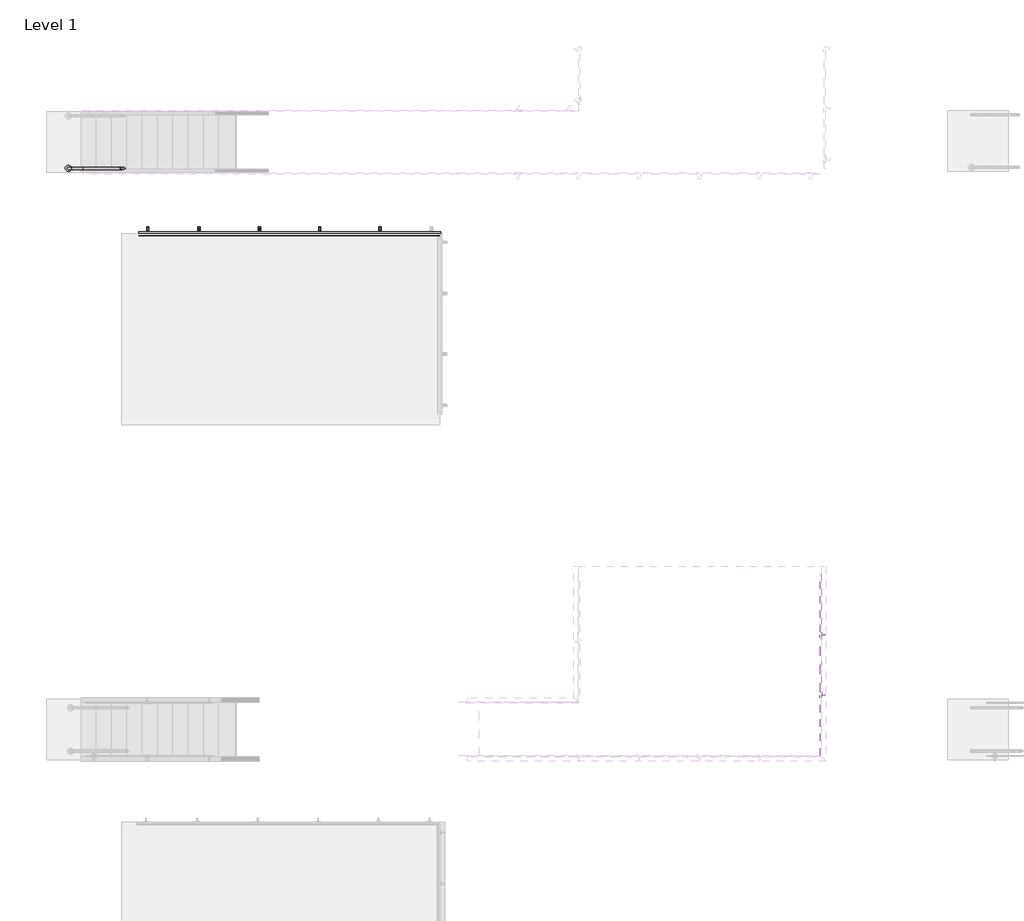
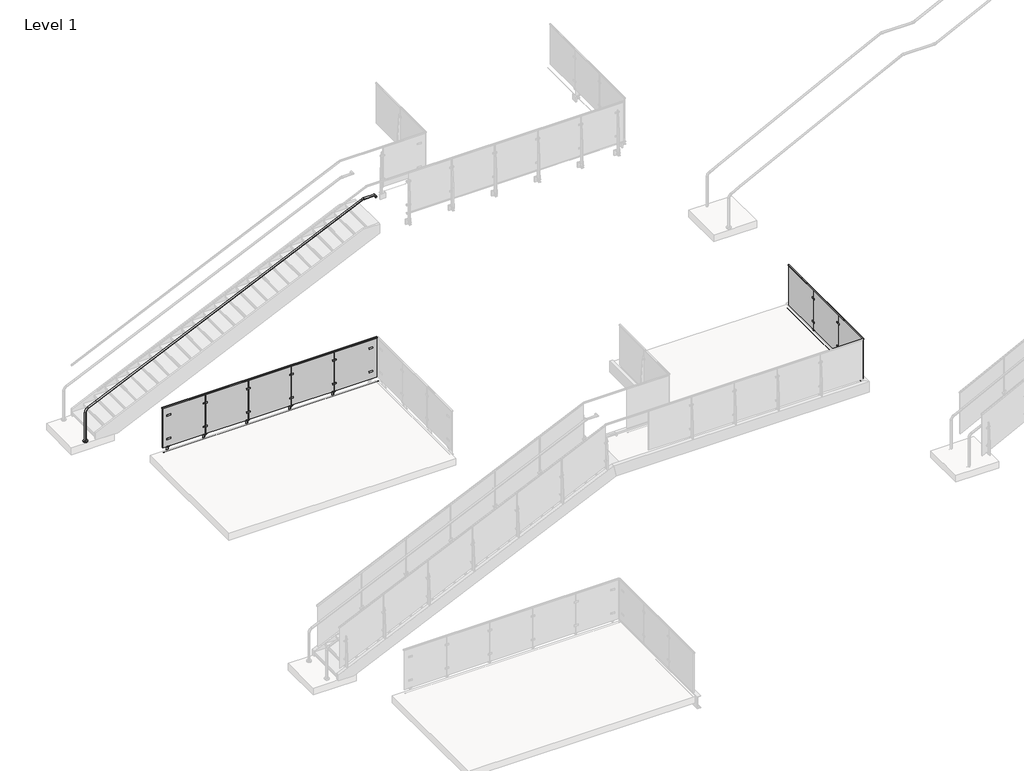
# One storey, part 17 of 37: 2 proxies, 2 railings.
"""IFC4 building model written with IfcOpenShell, lengths in millimetres."""

from ifc_helpers import new_model, si_unit, point, frame, frame_2d, origin, place, context, project, spatial, polyline, circle_curve, ellipse_curve, trimmed, segment, composite_curve, outline, extrude, transform, mapped, element, save
from ifc_brep_helpers import plane_surface, cylinder_surface, revolved_surface, advanced_brep
from components import baluster_end_post_viva_solo_top_mount_5a94812b

model = new_model("IFC4")

# Units and contexts
model_context = context("Model", 3, world=origin())
ifc_project = project(units=[si_unit("LENGTHUNIT", "METRE", prefix="MILLI")], contexts=[model_context])

# Site, building, storey
site = spatial("IfcSite", under=ifc_project)
building = spatial("IfcBuilding", under=site)
storey = spatial("IfcBuildingStorey", under=building, Name="Level 1", Elevation=0.0)

# Proxies
placement = place(None, origin())
baluster_end_post_viva_solo_top_mount_shape = baluster_end_post_viva_solo_top_mount_5a94812b(model_context)
element("IfcBuildingElementProxy", 1, Name="Baluster-End-Post-VIVA-SOLO-Top Mount : ANCHORED TO CONCRETE_FASCIA B1 MOUNT FOLD_STRAIGHT", ObjectType="Baluster-End-Post-VIVA-SOLO-Top Mount : ANCHORED TO CONCRETE_FASCIA B1 MOUNT FOLD_STRAIGHT", at=placement, inside=storey, context=model_context, shape_type="MappedRepresentation", body=[
    mapped(baluster_end_post_viva_solo_top_mount_shape, transform((-12829.8616451, 21733.5939615, -0.508), x_axis=(-1.0, 0.0, 0.0), y_axis=(0.0, -1.0, 0.0), z_axis=(0.0, 0.0, 1.0))),
])
element("IfcBuildingElementProxy", 2, Name="Metal-VIVA-Circular-1 1/2\"-Fascia_Right", ObjectType="Metal-VIVA-Circular-1 1/2\"-Fascia_Right", at=placement, inside=storey, context=model_context, shape_type="SolidModel", body=[
    advanced_brep(
    [(-7445.0811907, 22851.3591942, 3761.5343758), (-7445.0811907, 22889.4591942, 3761.5343758), (-7172.0311907, 22889.4591942, 3761.5343758), (-7210.1311907, 22851.3591942, 3761.5343758), (-7210.1311907, 22806.9091942, 3761.5343758), (-7172.0311907, 22806.9091942, 3761.5343758)],
    [
        (0, 1, circle_curve(frame((-7445.0811907, 22870.4091942, 3761.5343758), z_axis=(-1.0, 0.0, 0.0), x_axis=(0.0, 1.0, 0.0)), 19.05)),
        (1, 0, circle_curve(frame((-7445.0811907, 22870.4091942, 3761.5343758), z_axis=(-1.0, 0.0, 0.0), x_axis=(0.0, 1.0, 0.0)), 19.05)),
        (1, 2),
        (2, 3, ellipse_curve(frame((-7191.0811907, 22870.4091942, 3761.5343758), z_axis=(-0.7071067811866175, 0.7071067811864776, 0.0), x_axis=(-0.7071067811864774, -0.7071067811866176, 0.0)), 26.9407684, 19.05)),
        (3, 0),
        (3, 2, ellipse_curve(frame((-7191.0811907, 22870.4091942, 3761.5343758), z_axis=(-0.7071067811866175, 0.7071067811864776, 0.0), x_axis=(-0.7071067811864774, -0.7071067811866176, 0.0)), 26.9407684, 19.05)),
        (4, 5, circle_curve(frame((-7191.0811907, 22806.9091942, 3761.5343758), z_axis=(0.0, -1.0, 0.0), x_axis=(1.0, 0.0, 0.0)), 19.05)),
        (5, 4, circle_curve(frame((-7191.0811907, 22806.9091942, 3761.5343758), z_axis=(0.0, -1.0, 0.0), x_axis=(1.0, 0.0, 0.0)), 19.05)),
        (2, 5),
        (4, 3),
    ],
    [
        plane_surface(frame((-7445.0811907, 22870.4091942, 3761.5343758), z_axis=(-1.0, 0.0, 0.0), x_axis=(0.0, 0.0, 1.0))),
        cylinder_surface(frame((-7445.0811907, 22870.4091942, 3761.5343758), z_axis=(-1.0, 0.0, 0.0), x_axis=(0.0, 1.0, 0.0)), 19.05),
        plane_surface(frame((-7191.0811907, 22806.9091942, 3761.5343758), z_axis=(0.0, -1.0, 0.0), x_axis=(0.0, 0.0, 1.0))),
        cylinder_surface(frame((-7191.0811907, 22870.4091942, 3761.5343758), z_axis=(0.0, 1.0, 0.0), x_axis=(1.0, 0.0, 0.0)), 19.05),
    ],
    [
        (0, [[1, 2]]),
        (1, [[-2, 3, 4, 5]]),
        (1, [[-1, -5, 6, -3]]),
        (2, [[7, 8]]),
        (3, [[-4, 9, -7, 10]]),
        (3, [[-6, -10, -8, -9]]),
    ],
),
    extrude(outline(composite_curve([segment(trimmed(circle_curve(frame_2d((-14014.9960127, 22870.4091942)), 50.8), [point((-14014.9960127, 22921.2091942))], [point((-14014.9960127, 22819.6091942))], False, "CARTESIAN"), True, "CONTINUOUS"), segment(trimmed(circle_curve(frame_2d((-14014.9960127, 22870.4091942)), 50.8), [point((-14014.9960127, 22819.6091942))], [point((-14014.9960127, 22921.2091942))], False, "CARTESIAN"), True, "CONTINUOUS")], self_intersect=False)), frame((0.0, 0.0, -1.27), z_axis=(0.0, 0.0, 1.0), x_axis=(1.0, 0.0, 0.0)), (0.0, 0.0, 1.0), 19.05),
    advanced_brep(
    [(-14014.9960127, 22851.3591942, 17.78), (-14014.9960127, 22889.4591942, 17.78), (-14014.9960127, 22851.3591942, 721.3199396), (-14014.9960127, 22889.4591942, 721.3199396), (-13955.4515938, 22889.4591942, 813.8071717), (-13955.4515938, 22851.3591942, 813.8071717), (-13768.3505912, 22851.3591942, 898.8853085), (-13768.3505912, 22889.4591942, 898.8853085), (-7492.9486795, 22851.3591942, 3752.4216078), (-7492.9486795, 22889.4591942, 3752.4216078), (-7450.8930984, 22889.4591942, 3761.5343758), (-7450.8930984, 22851.3591942, 3761.5343758), (-7445.0811907, 22851.3591942, 3761.5343758), (-7445.0811907, 22889.4591942, 3761.5343758)],
    [
        (0, 1, circle_curve(frame((-14014.9960127, 22870.4091942, 17.78), z_axis=(0.0, 0.0, -1.0), x_axis=(0.0, 1.0, 0.0)), 19.05)),
        (1, 0, circle_curve(frame((-14014.9960127, 22870.4091942, 17.78), z_axis=(0.0, 0.0, -1.0), x_axis=(0.0, 1.0, 0.0)), 19.05)),
        (0, 2),
        (2, 3, circle_curve(frame((-14014.9960127, 22870.4091942, 721.3199396), z_axis=(0.0, 0.0, -1.0), x_axis=(0.0, 1.0, 0.0)), 19.05)),
        (3, 1),
        (3, 2, circle_curve(frame((-14014.9960127, 22870.4091942, 721.3199396), z_axis=(0.0, 0.0, -1.0), x_axis=(0.0, 1.0, 0.0)), 19.05)),
        (4, 3, circle_curve(frame((-13913.3960127, 22889.4591942, 721.3199396), z_axis=(0.0, -1.0, 0.0), x_axis=(-1.0, 0.0, 0.0)), 101.6)),
        (2, 5, circle_curve(frame((-13913.3960127, 22851.3591942, 721.3199396), z_axis=(0.0, 1.0, 0.0), x_axis=(-1.0, 0.0, 0.0)), 101.6)),
        (5, 4, circle_curve(frame((-13955.4515938, 22870.4091942, 813.8071717), z_axis=(-0.9103074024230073, 0.0, -0.41393288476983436), x_axis=(0.0, 1.0, 0.0)), 19.05)),
        (4, 5, circle_curve(frame((-13955.4515938, 22870.4091942, 813.8071717), z_axis=(-0.9103074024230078, 0.0, -0.41393288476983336), x_axis=(0.0, 1.0, 0.0)), 19.05)),
        (5, 6),
        (6, 7, circle_curve(frame((-13768.3505912, 22870.4091942, 898.8853085), z_axis=(-0.9103074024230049, 0.0, -0.4139328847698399), x_axis=(0.0, 1.0, 0.0)), 19.05)),
        (7, 4),
        (7, 6, circle_curve(frame((-13768.3505912, 22870.4091942, 898.8853085), z_axis=(-0.9103074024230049, 0.0, -0.4139328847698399), x_axis=(0.0, 1.0, 0.0)), 19.05)),
        (6, 8),
        (8, 9, circle_curve(frame((-7492.9486795, 22870.4091942, 3752.4216078), z_axis=(-0.9103074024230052, 0.0, -0.4139328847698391), x_axis=(0.0, 1.0, 0.0)), 19.05)),
        (9, 7),
        (9, 8, circle_curve(frame((-7492.9486795, 22870.4091942, 3752.4216078), z_axis=(-0.9103074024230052, 0.0, -0.4139328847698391), x_axis=(0.0, 1.0, 0.0)), 19.05)),
        (10, 9, circle_curve(frame((-7450.8930984, 22889.4591942, 3659.9343758), z_axis=(0.0, -1.0, 0.0), x_axis=(-0.4139328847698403, 0.0, 0.9103074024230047)), 101.6)),
        (8, 11, circle_curve(frame((-7450.8930984, 22851.3591942, 3659.9343758), z_axis=(0.0, 1.0, 0.0), x_axis=(-0.4139328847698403, 0.0, 0.9103074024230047)), 101.6)),
        (11, 10, circle_curve(frame((-7450.8930984, 22870.4091942, 3761.5343758), z_axis=(-1.0, 0.0, 0.0), x_axis=(0.0, 1.0, 0.0)), 19.05)),
        (10, 11, circle_curve(frame((-7450.8930984, 22870.4091942, 3761.5343758), z_axis=(-1.0, 0.0, 0.0), x_axis=(0.0, 1.0, 0.0)), 19.05)),
        (12, 13, circle_curve(frame((-7445.0811907, 22870.4091942, 3761.5343758), z_axis=(1.0, 0.0, 0.0), x_axis=(0.0, 1.0, 0.0)), 19.05)),
        (13, 12, circle_curve(frame((-7445.0811907, 22870.4091942, 3761.5343758), z_axis=(1.0, 0.0, 0.0), x_axis=(0.0, 1.0, 0.0)), 19.05)),
        (11, 12),
        (13, 10),
    ],
    [
        plane_surface(frame((-14034.0460127, 22832.3091942, 17.78), z_axis=(0.0, 0.0, -1.0), x_axis=(1.0, 0.0, 0.0))),
        cylinder_surface(frame((-14014.9960127, 22870.4091942, 17.78), z_axis=(0.0, 0.0, -1.0), x_axis=(0.0, 1.0, 0.0)), 19.05),
        revolved_surface(trimmed(ellipse_curve(frame((-14014.9960127, 22870.4091942, 721.3199396), z_axis=(0.0, 0.0, -1.0), x_axis=(0.0, 1.0, 0.0)), 19.05, 19.05), [point((-14014.9960127, 22851.3591942, 721.3199396))], [point((-14014.9960127, 22889.4591942, 721.3199396))], True, "CARTESIAN"), (-13913.3960127, 22870.4091942, 721.3199396), (0.0, 1.0, 0.0)),
        revolved_surface(trimmed(ellipse_curve(frame((-14014.9960127, 22870.4091942, 721.3199396), z_axis=(0.0, 0.0, -1.0), x_axis=(0.0, 1.0, 0.0)), 19.05, 19.05), [point((-14014.9960127, 22889.4591942, 721.3199396))], [point((-14014.9960127, 22851.3591942, 721.3199396))], True, "CARTESIAN"), (-13913.3960127, 22870.4091942, 721.3199396), (0.0, 1.0, 0.0)),
        cylinder_surface(frame((-13955.4515938, 22870.4091942, 813.8071717), z_axis=(-0.9103074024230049, 0.0, -0.4139328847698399), x_axis=(0.0, 1.0, 0.0)), 19.05),
        cylinder_surface(frame((-13768.3505912, 22870.4091942, 898.8853085), z_axis=(-0.9103074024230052, 0.0, -0.4139328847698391), x_axis=(0.0, 1.0, 0.0)), 19.05),
        revolved_surface(trimmed(ellipse_curve(frame((-7492.9486795, 22870.4091942, 3752.4216078), z_axis=(-0.9103074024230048, 0.0, -0.41393288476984), x_axis=(0.0, 1.0, 0.0)), 19.05, 19.05), [point((-7492.9486795, 22851.3591942, 3752.4216078))], [point((-7492.9486795, 22889.4591942, 3752.4216078))], True, "CARTESIAN"), (-7450.8930984, 22870.4091942, 3659.9343758), (0.0, 1.0, 0.0)),
        revolved_surface(trimmed(ellipse_curve(frame((-7492.9486795, 22870.4091942, 3752.4216078), z_axis=(-0.9103074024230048, 0.0, -0.41393288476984), x_axis=(0.0, 1.0, 0.0)), 19.05, 19.05), [point((-7492.9486795, 22889.4591942, 3752.4216078))], [point((-7492.9486795, 22851.3591942, 3752.4216078))], True, "CARTESIAN"), (-7450.8930984, 22870.4091942, 3659.9343758), (0.0, 1.0, 0.0)),
        plane_surface(frame((-7445.0811907, 22870.4091942, 3780.5843758), z_axis=(1.0, 0.0, 0.0), x_axis=(0.0, 1.0, 0.0))),
        cylinder_surface(frame((-7450.8930984, 22870.4091942, 3761.5343758), z_axis=(-1.0, 0.0, 0.0), x_axis=(0.0, 1.0, 0.0)), 19.05),
    ],
    [
        (0, [[1, 2]]),
        (1, [[-1, 3, 4, 5]]),
        (1, [[-2, -5, 6, -3]]),
        (2, [[7, -4, 8, 9]]),
        (3, [[-8, -6, -7, 10]]),
        (4, [[-9, 11, 12, 13]]),
        (4, [[-10, -13, 14, -11]]),
        (5, [[-12, 15, 16, 17]]),
        (5, [[-14, -17, 18, -15]]),
        (6, [[19, -16, 20, 21]]),
        (7, [[-20, -18, -19, 22]]),
        (8, [[23, 24]]),
        (9, [[-21, 25, -24, 26]]),
        (9, [[-22, -26, -23, -25]]),
    ],
),
])

# Railings
element("IfcRailing", 3, ObjectType="VIVA-SOLO-Glass-Top_Weld_Steel-Channel Mount-Straight", at=placement, inside=storey, context=model_context, shape_type="SweptSolid", body=[
    extrude(outline(composite_curve([segment(trimmed(circle_curve(frame_2d((3047.746, -1384.947319)), 0.254), [point((3047.746, -1384.693319))], [point((3047.746, -1385.201319))], False, "CARTESIAN"), True, "CONTINUOUS"), segment(trimmed(circle_curve(frame_2d((3047.746, -1384.947319)), 0.254), [point((3047.746, -1385.201319))], [point((3047.746, -1384.693319))], False, "CARTESIAN"), True, "CONTINUOUS")], self_intersect=False)), frame((0.0, 12987.2826645, 0.0), z_axis=(0.0, 1.0, 0.0), x_axis=(0.0, 0.0, 1.0)), (0.0, 0.0, 1.0), 3048.0),
    extrude(outline(composite_curve([segment(trimmed(circle_curve(frame_2d((3047.746, -1384.947319)), 0.254), [point((3047.746, -1384.693319))], [point((3047.746, -1385.201319))], False, "CARTESIAN"), True, "CONTINUOUS"), segment(trimmed(circle_curve(frame_2d((3047.746, -1384.947319)), 0.254), [point((3047.746, -1385.201319))], [point((3047.746, -1384.693319))], False, "CARTESIAN"), True, "CONTINUOUS")], self_intersect=False)), frame((0.0, 12987.2826645, 0.0), z_axis=(0.0, 1.0, 0.0), x_axis=(0.0, 0.0, 1.0)), (0.0, 0.0, 1.0), 3048.0),
    extrude(outline(polyline([(4127.5, -1337.639819), (4127.5, -1359.864819), (4102.1, -1359.864819), (4102.1, -1355.102319), (4122.7375, -1355.102319), (4122.7375, -1342.402319), (4102.1, -1342.402319), (4102.1, -1337.639819), (4127.5, -1337.639819)])), frame((0.0, 12987.2826645, 0.0), z_axis=(0.0, 1.0, 0.0), x_axis=(0.0, 0.0, 1.0)), (0.0, 0.0, 1.0), 3048.0),
    extrude(outline(polyline([(-1355.102319, 15032.3657111), (-1355.102319, 16022.9657111), (-1342.402319, 16022.9657111), (-1342.402319, 15032.3657111), (-1355.102319, 15032.3657111)])), frame((0.0, 0.0, 3124.2), z_axis=(0.0, 0.0, 1.0), x_axis=(1.0, 0.0, 0.0)), (0.0, 0.0, 1.0), 998.474),
    extrude(outline(polyline([(3962.4, -1332.877319), (3086.1, -1332.877319), (3086.1, -1269.377319), (3429.0, -1269.377319), (3962.4, -1307.477319), (3962.4, -1332.877319)])), frame((0.0, 15012.9326645, 0.0), z_axis=(0.0, 1.0, 0.0), x_axis=(0.0, 0.0, 1.0)), (0.0, 0.0, 1.0), 12.7),
    extrude(outline(polyline([(-1342.402319, 14974.8326645), (-1342.402319, 15063.7326645), (-1332.877319, 15063.7326645), (-1332.877319, 14974.8326645), (-1342.402319, 14974.8326645)])), frame((0.0, 0.0, 3299.9910694), z_axis=(0.0, 0.0, 1.0), x_axis=(1.0, 0.0, 0.0)), (0.0, 0.0, 1.0), 31.75),
    extrude(outline(polyline([(-1342.402319, 14974.8326645), (-1342.402319, 15063.7326645), (-1332.877319, 15063.7326645), (-1332.877319, 14974.8326645), (-1342.402319, 14974.8326645)])), frame((0.0, 0.0, 3886.2992187), z_axis=(0.0, 0.0, 1.0), x_axis=(1.0, 0.0, 0.0)), (0.0, 0.0, 1.0), 31.75),
    extrude(outline(polyline([(-1364.627319, 14974.8326645), (-1364.627319, 15063.7326645), (-1355.102319, 15063.7326645), (-1355.102319, 14974.8326645), (-1364.627319, 14974.8326645)])), frame((0.0, 0.0, 3299.9910694), z_axis=(0.0, 0.0, 1.0), x_axis=(1.0, 0.0, 0.0)), (0.0, 0.0, 1.0), 31.75),
    extrude(outline(polyline([(-1364.627319, 14974.8326645), (-1364.627319, 15063.7326645), (-1355.102319, 15063.7326645), (-1355.102319, 14974.8326645), (-1364.627319, 14974.8326645)])), frame((0.0, 0.0, 3886.2992187), z_axis=(0.0, 0.0, 1.0), x_axis=(1.0, 0.0, 0.0)), (0.0, 0.0, 1.0), 31.75),
    extrude(outline(polyline([(15063.7326645, 3124.2), (15063.7326645, 3117.85), (15019.2826645, 3095.9353513), (14974.8326645, 3117.85), (14974.8326645, 3124.2), (15063.7326645, 3124.2)])), frame((-1355.102319, 0.0, 0.0), z_axis=(1.0, 0.0, 0.0), x_axis=(0.0, 1.0, 0.0)), (0.0, 0.0, 1.0), 12.7),
    extrude(outline(composite_curve([segment(trimmed(circle_curve(frame_2d((15019.2826645, 3315.8660694)), 6.35), [point((15025.6326645, 3315.8660694))], [point((15012.9326645, 3315.8660694))], False, "CARTESIAN"), True, "CONTINUOUS"), segment(trimmed(circle_curve(frame_2d((15019.2826645, 3315.8660694)), 6.35), [point((15012.9326645, 3315.8660694))], [point((15025.6326645, 3315.8660694))], False, "CARTESIAN"), True, "CONTINUOUS")], self_intersect=False)), frame((-1355.102319, 0.0, 0.0), z_axis=(1.0, 0.0, 0.0), x_axis=(0.0, 1.0, 0.0)), (0.0, 0.0, 1.0), 12.7),
    extrude(outline(composite_curve([segment(trimmed(circle_curve(frame_2d((15019.2826645, 3902.1742187)), 6.35), [point((15025.6326645, 3902.1742187))], [point((15012.9326645, 3902.1742187))], False, "CARTESIAN"), True, "CONTINUOUS"), segment(trimmed(circle_curve(frame_2d((15019.2826645, 3902.1742187)), 6.35), [point((15012.9326645, 3902.1742187))], [point((15025.6326645, 3902.1742187))], False, "CARTESIAN"), True, "CONTINUOUS")], self_intersect=False)), frame((-1355.102319, 0.0, 0.0), z_axis=(1.0, 0.0, 0.0), x_axis=(0.0, 1.0, 0.0)), (0.0, 0.0, 1.0), 12.7),
    extrude(outline(composite_curve([segment(trimmed(circle_curve(frame_2d((15019.2826645, 3108.325)), 11.1125), [point((15030.3951645, 3108.325))], [point((15008.1701645, 3108.325))], False, "CARTESIAN"), True, "CONTINUOUS"), segment(trimmed(circle_curve(frame_2d((15019.2826645, 3108.325)), 11.1125), [point((15008.1701645, 3108.325))], [point((15030.3951645, 3108.325))], False, "CARTESIAN"), True, "CONTINUOUS")], self_intersect=False)), frame((-1358.277319, 0.0, 0.0), z_axis=(1.0, 0.0, 0.0), x_axis=(0.0, 1.0, 0.0)), (0.0, 0.0, 1.0), 25.4),
    extrude(outline(polyline([(-1355.102319, 14016.3657111), (-1355.102319, 15006.9657111), (-1342.402319, 15006.9657111), (-1342.402319, 14016.3657111), (-1355.102319, 14016.3657111)])), frame((0.0, 0.0, 3124.2), z_axis=(0.0, 0.0, 1.0), x_axis=(1.0, 0.0, 0.0)), (0.0, 0.0, 1.0), 998.474),
    extrude(outline(polyline([(3962.4, -1332.877319), (3086.1, -1332.877319), (3086.1, -1269.377319), (3429.0, -1269.377319), (3962.4, -1307.477319), (3962.4, -1332.877319)])), frame((0.0, 13996.9326645, 0.0), z_axis=(0.0, 1.0, 0.0), x_axis=(0.0, 0.0, 1.0)), (0.0, 0.0, 1.0), 12.7),
    extrude(outline(polyline([(-1342.402319, 13958.8326645), (-1342.402319, 14047.7326645), (-1332.877319, 14047.7326645), (-1332.877319, 13958.8326645), (-1342.402319, 13958.8326645)])), frame((0.0, 0.0, 3299.9910694), z_axis=(0.0, 0.0, 1.0), x_axis=(1.0, 0.0, 0.0)), (0.0, 0.0, 1.0), 31.75),
    extrude(outline(polyline([(-1342.402319, 13958.8326645), (-1342.402319, 14047.7326645), (-1332.877319, 14047.7326645), (-1332.877319, 13958.8326645), (-1342.402319, 13958.8326645)])), frame((0.0, 0.0, 3886.2992187), z_axis=(0.0, 0.0, 1.0), x_axis=(1.0, 0.0, 0.0)), (0.0, 0.0, 1.0), 31.75),
    extrude(outline(polyline([(-1364.627319, 13958.8326645), (-1364.627319, 14047.7326645), (-1355.102319, 14047.7326645), (-1355.102319, 13958.8326645), (-1364.627319, 13958.8326645)])), frame((0.0, 0.0, 3299.9910694), z_axis=(0.0, 0.0, 1.0), x_axis=(1.0, 0.0, 0.0)), (0.0, 0.0, 1.0), 31.75),
    extrude(outline(polyline([(-1364.627319, 13958.8326645), (-1364.627319, 14047.7326645), (-1355.102319, 14047.7326645), (-1355.102319, 13958.8326645), (-1364.627319, 13958.8326645)])), frame((0.0, 0.0, 3886.2992187), z_axis=(0.0, 0.0, 1.0), x_axis=(1.0, 0.0, 0.0)), (0.0, 0.0, 1.0), 31.75),
    extrude(outline(polyline([(14047.7326645, 3124.2), (14047.7326645, 3117.85), (14003.2826645, 3095.9353513), (13958.8326645, 3117.85), (13958.8326645, 3124.2), (14047.7326645, 3124.2)])), frame((-1355.102319, 0.0, 0.0), z_axis=(1.0, 0.0, 0.0), x_axis=(0.0, 1.0, 0.0)), (0.0, 0.0, 1.0), 12.7),
    extrude(outline(composite_curve([segment(trimmed(circle_curve(frame_2d((14003.2826645, 3315.8660694)), 6.35), [point((14009.6326645, 3315.8660694))], [point((13996.9326645, 3315.8660694))], False, "CARTESIAN"), True, "CONTINUOUS"), segment(trimmed(circle_curve(frame_2d((14003.2826645, 3315.8660694)), 6.35), [point((13996.9326645, 3315.8660694))], [point((14009.6326645, 3315.8660694))], False, "CARTESIAN"), True, "CONTINUOUS")], self_intersect=False)), frame((-1355.102319, 0.0, 0.0), z_axis=(1.0, 0.0, 0.0), x_axis=(0.0, 1.0, 0.0)), (0.0, 0.0, 1.0), 12.7),
    extrude(outline(composite_curve([segment(trimmed(circle_curve(frame_2d((14003.2826645, 3902.1742187)), 6.35), [point((14009.6326645, 3902.1742187))], [point((13996.9326645, 3902.1742187))], False, "CARTESIAN"), True, "CONTINUOUS"), segment(trimmed(circle_curve(frame_2d((14003.2826645, 3902.1742187)), 6.35), [point((13996.9326645, 3902.1742187))], [point((14009.6326645, 3902.1742187))], False, "CARTESIAN"), True, "CONTINUOUS")], self_intersect=False)), frame((-1355.102319, 0.0, 0.0), z_axis=(1.0, 0.0, 0.0), x_axis=(0.0, 1.0, 0.0)), (0.0, 0.0, 1.0), 12.7),
    extrude(outline(composite_curve([segment(trimmed(circle_curve(frame_2d((14003.2826645, 3108.325)), 11.1125), [point((14014.3951645, 3108.325))], [point((13992.1701645, 3108.325))], False, "CARTESIAN"), True, "CONTINUOUS"), segment(trimmed(circle_curve(frame_2d((14003.2826645, 3108.325)), 11.1125), [point((13992.1701645, 3108.325))], [point((14014.3951645, 3108.325))], False, "CARTESIAN"), True, "CONTINUOUS")], self_intersect=False)), frame((-1358.277319, 0.0, 0.0), z_axis=(1.0, 0.0, 0.0), x_axis=(0.0, 1.0, 0.0)), (0.0, 0.0, 1.0), 25.4),
    extrude(outline(polyline([(-1355.102319, 13000.3657111), (-1355.102319, 13990.9657111), (-1342.402319, 13990.9657111), (-1342.402319, 13000.3657111), (-1355.102319, 13000.3657111)])), frame((0.0, 0.0, 3124.2), z_axis=(0.0, 0.0, 1.0), x_axis=(1.0, 0.0, 0.0)), (0.0, 0.0, 1.0), 998.474),
])
element("IfcRailing", 4, ObjectType="VIVA-SOLO-Glass-Fascia Mount-Straight-B1", at=placement, inside=storey, context=model_context, shape_type="SweptSolid", body=[
    extrude(outline(composite_curve([segment(trimmed(circle_curve(frame_2d((21733.5939615, -0.254)), 0.254), [point((21733.3399615, -0.254))], [point((21733.8479615, -0.254))], False, "CARTESIAN"), True, "CONTINUOUS"), segment(trimmed(circle_curve(frame_2d((21733.5939615, -0.254)), 0.254), [point((21733.8479615, -0.254))], [point((21733.3399615, -0.254))], False, "CARTESIAN"), True, "CONTINUOUS")], self_intersect=False)), frame((-12829.8616451, 0.0, 0.0), z_axis=(1.0, 0.0, 0.0), x_axis=(0.0, 1.0, 0.0)), (0.0, 0.0, 1.0), 5080.0),
    extrude(outline(composite_curve([segment(trimmed(circle_curve(frame_2d((21733.5939615, -0.254)), 0.254), [point((21733.3399615, -0.254))], [point((21733.8479615, -0.254))], False, "CARTESIAN"), True, "CONTINUOUS"), segment(trimmed(circle_curve(frame_2d((21733.5939615, -0.254)), 0.254), [point((21733.8479615, -0.254))], [point((21733.3399615, -0.254))], False, "CARTESIAN"), True, "CONTINUOUS")], self_intersect=False)), frame((-12829.8616451, 0.0, 0.0), z_axis=(1.0, 0.0, 0.0), x_axis=(0.0, 1.0, 0.0)), (0.0, 0.0, 1.0), 5080.0),
    extrude(outline(polyline([(21779.3139615, 1079.5), (21801.5389615, 1079.5), (21801.5389615, 1054.1), (21796.7764615, 1054.1), (21796.7764615, 1074.7375), (21784.0764615, 1074.7375), (21784.0764615, 1054.1), (21779.3139615, 1054.1), (21779.3139615, 1079.5)])), frame((-12829.8616451, 0.0, 0.0), z_axis=(1.0, 0.0, 0.0), x_axis=(0.0, 1.0, 0.0)), (0.0, 0.0, 1.0), 5080.0),
    extrude(outline(polyline([(-8752.7785985, 21784.1399615), (-8752.7785985, 21796.8399615), (-7762.1785985, 21796.8399615), (-7762.1785985, 21784.1399615), (-8752.7785985, 21784.1399615)])), frame((0.0, 0.0, 76.2), z_axis=(0.0, 0.0, 1.0), x_axis=(1.0, 0.0, 0.0)), (0.0, 0.0, 1.0), 998.474),
    extrude(outline(polyline([(21806.3649615, 914.4), (21831.7649615, 914.4), (21869.8649615, 381.0), (21869.8649615, -184.15), (21806.3649615, -184.15), (21806.3649615, 914.4)])), frame((-8772.2116451, 0.0, 0.0), z_axis=(1.0, 0.0, 0.0), x_axis=(0.0, 1.0, 0.0)), (0.0, 0.0, 1.0), 12.7),
    extrude(outline(polyline([(-8746.0178951, 21790.4899615), (-8785.7053951, 21790.4899615), (-8785.7053951, 21884.1524615), (-8746.0178951, 21884.1524615), (-8746.0178951, 21790.4899615)])), frame((0.0, 0.0, -128.5875), z_axis=(0.0, 0.0, 1.0), x_axis=(1.0, 0.0, 0.0)), (0.0, 0.0, 1.0), 12.7),
    extrude(outline(polyline([(-8746.0178951, 21790.4899615), (-8785.7053951, 21790.4899615), (-8785.7053951, 21884.1524615), (-8746.0178951, 21884.1524615), (-8746.0178951, 21790.4899615)])), frame((0.0, 0.0, -188.9125), z_axis=(0.0, 0.0, 1.0), x_axis=(1.0, 0.0, 0.0)), (0.0, 0.0, 1.0), 12.7),
    extrude(outline(polyline([(-8810.3116451, 21796.8399615), (-8810.3116451, 21806.3649615), (-8721.4116451, 21806.3649615), (-8721.4116451, 21796.8399615), (-8810.3116451, 21796.8399615)])), frame((0.0, 0.0, 251.9910694), z_axis=(0.0, 0.0, 1.0), x_axis=(1.0, 0.0, 0.0)), (0.0, 0.0, 1.0), 31.75),
    extrude(outline(polyline([(-8810.3116451, 21796.8399615), (-8810.3116451, 21806.3649615), (-8721.4116451, 21806.3649615), (-8721.4116451, 21796.8399615), (-8810.3116451, 21796.8399615)])), frame((0.0, 0.0, 838.2992187), z_axis=(0.0, 0.0, 1.0), x_axis=(1.0, 0.0, 0.0)), (0.0, 0.0, 1.0), 31.75),
    extrude(outline(polyline([(-8810.3116451, 21774.6149615), (-8810.3116451, 21784.1399615), (-8721.4116451, 21784.1399615), (-8721.4116451, 21774.6149615), (-8810.3116451, 21774.6149615)])), frame((0.0, 0.0, 251.9910694), z_axis=(0.0, 0.0, 1.0), x_axis=(1.0, 0.0, 0.0)), (0.0, 0.0, 1.0), 31.75),
    extrude(outline(polyline([(-8810.3116451, 21774.6149615), (-8810.3116451, 21784.1399615), (-8721.4116451, 21784.1399615), (-8721.4116451, 21774.6149615), (-8810.3116451, 21774.6149615)])), frame((0.0, 0.0, 838.2992187), z_axis=(0.0, 0.0, 1.0), x_axis=(1.0, 0.0, 0.0)), (0.0, 0.0, 1.0), 31.75),
    extrude(outline(polyline([(76.2, -8721.4116451), (76.2, -8810.3116451), (69.85, -8810.3116451), (47.9353513, -8765.8616451), (69.85, -8721.4116451), (76.2, -8721.4116451)])), frame((0.0, 21784.1399615, 0.0), z_axis=(0.0, 1.0, 0.0), x_axis=(0.0, 0.0, 1.0)), (0.0, 0.0, 1.0), 12.7),
    extrude(outline(polyline([(-8829.3616451, 21769.8524615), (-8829.3616451, 21790.4899615), (-8702.3616451, 21790.4899615), (-8702.3616451, 21769.8524615), (-8829.3616451, 21769.8524615)])), frame((0.0, 0.0, -215.9), z_axis=(0.0, 0.0, 1.0), x_axis=(1.0, 0.0, 0.0)), (0.0, 0.0, 1.0), 127.0),
    extrude(outline(composite_curve([segment(trimmed(circle_curve(frame_2d((267.8660694, -8765.8616451)), 6.35), [point((267.8660694, -8759.5116451))], [point((267.8660694, -8772.2116451))], False, "CARTESIAN"), True, "CONTINUOUS"), segment(trimmed(circle_curve(frame_2d((267.8660694, -8765.8616451)), 6.35), [point((267.8660694, -8772.2116451))], [point((267.8660694, -8759.5116451))], False, "CARTESIAN"), True, "CONTINUOUS")], self_intersect=False)), frame((0.0, 21784.1399615, 0.0), z_axis=(0.0, 1.0, 0.0), x_axis=(0.0, 0.0, 1.0)), (0.0, 0.0, 1.0), 12.7),
    extrude(outline(composite_curve([segment(trimmed(circle_curve(frame_2d((854.1742187, -8765.8616451)), 6.35), [point((854.1742187, -8759.5116451))], [point((854.1742187, -8772.2116451))], False, "CARTESIAN"), True, "CONTINUOUS"), segment(trimmed(circle_curve(frame_2d((854.1742187, -8765.8616451)), 6.35), [point((854.1742187, -8772.2116451))], [point((854.1742187, -8759.5116451))], False, "CARTESIAN"), True, "CONTINUOUS")], self_intersect=False)), frame((0.0, 21784.1399615, 0.0), z_axis=(0.0, 1.0, 0.0), x_axis=(0.0, 0.0, 1.0)), (0.0, 0.0, 1.0), 12.7),
    extrude(outline(composite_curve([segment(trimmed(circle_curve(frame_2d((60.325, -8765.8616451)), 11.1125), [point((60.325, -8754.7491451))], [point((60.325, -8776.9741451))], False, "CARTESIAN"), True, "CONTINUOUS"), segment(trimmed(circle_curve(frame_2d((60.325, -8765.8616451)), 11.1125), [point((60.325, -8776.9741451))], [point((60.325, -8754.7491451))], False, "CARTESIAN"), True, "CONTINUOUS")], self_intersect=False)), frame((0.0, 21780.9649615, 0.0), z_axis=(0.0, 1.0, 0.0), x_axis=(0.0, 0.0, 1.0)), (0.0, 0.0, 1.0), 25.4),
    extrude(outline(polyline([(-9768.7785985, 21784.1399615), (-9768.7785985, 21796.8399615), (-8778.1785985, 21796.8399615), (-8778.1785985, 21784.1399615), (-9768.7785985, 21784.1399615)])), frame((0.0, 0.0, 76.2), z_axis=(0.0, 0.0, 1.0), x_axis=(1.0, 0.0, 0.0)), (0.0, 0.0, 1.0), 998.474),
    extrude(outline(polyline([(21806.3649615, 914.4), (21831.7649615, 914.4), (21869.8649615, 381.0), (21869.8649615, -184.15), (21806.3649615, -184.15), (21806.3649615, 914.4)])), frame((-9788.2116451, 0.0, 0.0), z_axis=(1.0, 0.0, 0.0), x_axis=(0.0, 1.0, 0.0)), (0.0, 0.0, 1.0), 12.7),
    extrude(outline(polyline([(-9762.0178951, 21790.4899615), (-9801.7053951, 21790.4899615), (-9801.7053951, 21884.1524615), (-9762.0178951, 21884.1524615), (-9762.0178951, 21790.4899615)])), frame((0.0, 0.0, -128.5875), z_axis=(0.0, 0.0, 1.0), x_axis=(1.0, 0.0, 0.0)), (0.0, 0.0, 1.0), 12.7),
    extrude(outline(polyline([(-9762.0178951, 21790.4899615), (-9801.7053951, 21790.4899615), (-9801.7053951, 21884.1524615), (-9762.0178951, 21884.1524615), (-9762.0178951, 21790.4899615)])), frame((0.0, 0.0, -188.9125), z_axis=(0.0, 0.0, 1.0), x_axis=(1.0, 0.0, 0.0)), (0.0, 0.0, 1.0), 12.7),
    extrude(outline(polyline([(-9826.3116451, 21796.8399615), (-9826.3116451, 21806.3649615), (-9737.4116451, 21806.3649615), (-9737.4116451, 21796.8399615), (-9826.3116451, 21796.8399615)])), frame((0.0, 0.0, 251.9910694), z_axis=(0.0, 0.0, 1.0), x_axis=(1.0, 0.0, 0.0)), (0.0, 0.0, 1.0), 31.75),
    extrude(outline(polyline([(-9826.3116451, 21796.8399615), (-9826.3116451, 21806.3649615), (-9737.4116451, 21806.3649615), (-9737.4116451, 21796.8399615), (-9826.3116451, 21796.8399615)])), frame((0.0, 0.0, 838.2992187), z_axis=(0.0, 0.0, 1.0), x_axis=(1.0, 0.0, 0.0)), (0.0, 0.0, 1.0), 31.75),
    extrude(outline(polyline([(-9826.3116451, 21774.6149615), (-9826.3116451, 21784.1399615), (-9737.4116451, 21784.1399615), (-9737.4116451, 21774.6149615), (-9826.3116451, 21774.6149615)])), frame((0.0, 0.0, 251.9910694), z_axis=(0.0, 0.0, 1.0), x_axis=(1.0, 0.0, 0.0)), (0.0, 0.0, 1.0), 31.75),
    extrude(outline(polyline([(-9826.3116451, 21774.6149615), (-9826.3116451, 21784.1399615), (-9737.4116451, 21784.1399615), (-9737.4116451, 21774.6149615), (-9826.3116451, 21774.6149615)])), frame((0.0, 0.0, 838.2992187), z_axis=(0.0, 0.0, 1.0), x_axis=(1.0, 0.0, 0.0)), (0.0, 0.0, 1.0), 31.75),
    extrude(outline(polyline([(76.2, -9737.4116451), (76.2, -9826.3116451), (69.85, -9826.3116451), (47.9353513, -9781.8616451), (69.85, -9737.4116451), (76.2, -9737.4116451)])), frame((0.0, 21784.1399615, 0.0), z_axis=(0.0, 1.0, 0.0), x_axis=(0.0, 0.0, 1.0)), (0.0, 0.0, 1.0), 12.7),
    extrude(outline(polyline([(-9845.3616451, 21769.8524615), (-9845.3616451, 21790.4899615), (-9718.3616451, 21790.4899615), (-9718.3616451, 21769.8524615), (-9845.3616451, 21769.8524615)])), frame((0.0, 0.0, -215.9), z_axis=(0.0, 0.0, 1.0), x_axis=(1.0, 0.0, 0.0)), (0.0, 0.0, 1.0), 127.0),
    extrude(outline(composite_curve([segment(trimmed(circle_curve(frame_2d((267.8660694, -9781.8616451)), 6.35), [point((267.8660694, -9775.5116451))], [point((267.8660694, -9788.2116451))], False, "CARTESIAN"), True, "CONTINUOUS"), segment(trimmed(circle_curve(frame_2d((267.8660694, -9781.8616451)), 6.35), [point((267.8660694, -9788.2116451))], [point((267.8660694, -9775.5116451))], False, "CARTESIAN"), True, "CONTINUOUS")], self_intersect=False)), frame((0.0, 21784.1399615, 0.0), z_axis=(0.0, 1.0, 0.0), x_axis=(0.0, 0.0, 1.0)), (0.0, 0.0, 1.0), 12.7),
    extrude(outline(composite_curve([segment(trimmed(circle_curve(frame_2d((854.1742187, -9781.8616451)), 6.35), [point((854.1742187, -9775.5116451))], [point((854.1742187, -9788.2116451))], False, "CARTESIAN"), True, "CONTINUOUS"), segment(trimmed(circle_curve(frame_2d((854.1742187, -9781.8616451)), 6.35), [point((854.1742187, -9788.2116451))], [point((854.1742187, -9775.5116451))], False, "CARTESIAN"), True, "CONTINUOUS")], self_intersect=False)), frame((0.0, 21784.1399615, 0.0), z_axis=(0.0, 1.0, 0.0), x_axis=(0.0, 0.0, 1.0)), (0.0, 0.0, 1.0), 12.7),
    extrude(outline(composite_curve([segment(trimmed(circle_curve(frame_2d((60.325, -9781.8616451)), 11.1125), [point((60.325, -9770.7491451))], [point((60.325, -9792.9741451))], False, "CARTESIAN"), True, "CONTINUOUS"), segment(trimmed(circle_curve(frame_2d((60.325, -9781.8616451)), 11.1125), [point((60.325, -9792.9741451))], [point((60.325, -9770.7491451))], False, "CARTESIAN"), True, "CONTINUOUS")], self_intersect=False)), frame((0.0, 21780.9649615, 0.0), z_axis=(0.0, 1.0, 0.0), x_axis=(0.0, 0.0, 1.0)), (0.0, 0.0, 1.0), 25.4),
    extrude(outline(polyline([(-10784.7785985, 21784.1399615), (-10784.7785985, 21796.8399615), (-9794.1785985, 21796.8399615), (-9794.1785985, 21784.1399615), (-10784.7785985, 21784.1399615)])), frame((0.0, 0.0, 76.2), z_axis=(0.0, 0.0, 1.0), x_axis=(1.0, 0.0, 0.0)), (0.0, 0.0, 1.0), 998.474),
    extrude(outline(polyline([(21806.3649615, 914.4), (21831.7649615, 914.4), (21869.8649615, 381.0), (21869.8649615, -184.15), (21806.3649615, -184.15), (21806.3649615, 914.4)])), frame((-10804.2116451, 0.0, 0.0), z_axis=(1.0, 0.0, 0.0), x_axis=(0.0, 1.0, 0.0)), (0.0, 0.0, 1.0), 12.7),
    extrude(outline(polyline([(-10778.0178951, 21790.4899615), (-10817.7053951, 21790.4899615), (-10817.7053951, 21884.1524615), (-10778.0178951, 21884.1524615), (-10778.0178951, 21790.4899615)])), frame((0.0, 0.0, -128.5875), z_axis=(0.0, 0.0, 1.0), x_axis=(1.0, 0.0, 0.0)), (0.0, 0.0, 1.0), 12.7),
    extrude(outline(polyline([(-10778.0178951, 21790.4899615), (-10817.7053951, 21790.4899615), (-10817.7053951, 21884.1524615), (-10778.0178951, 21884.1524615), (-10778.0178951, 21790.4899615)])), frame((0.0, 0.0, -188.9125), z_axis=(0.0, 0.0, 1.0), x_axis=(1.0, 0.0, 0.0)), (0.0, 0.0, 1.0), 12.7),
    extrude(outline(polyline([(-10842.3116451, 21796.8399615), (-10842.3116451, 21806.3649615), (-10753.4116451, 21806.3649615), (-10753.4116451, 21796.8399615), (-10842.3116451, 21796.8399615)])), frame((0.0, 0.0, 251.9910694), z_axis=(0.0, 0.0, 1.0), x_axis=(1.0, 0.0, 0.0)), (0.0, 0.0, 1.0), 31.75),
    extrude(outline(polyline([(-10842.3116451, 21796.8399615), (-10842.3116451, 21806.3649615), (-10753.4116451, 21806.3649615), (-10753.4116451, 21796.8399615), (-10842.3116451, 21796.8399615)])), frame((0.0, 0.0, 838.2992187), z_axis=(0.0, 0.0, 1.0), x_axis=(1.0, 0.0, 0.0)), (0.0, 0.0, 1.0), 31.75),
    extrude(outline(polyline([(-10842.3116451, 21774.6149615), (-10842.3116451, 21784.1399615), (-10753.4116451, 21784.1399615), (-10753.4116451, 21774.6149615), (-10842.3116451, 21774.6149615)])), frame((0.0, 0.0, 251.9910694), z_axis=(0.0, 0.0, 1.0), x_axis=(1.0, 0.0, 0.0)), (0.0, 0.0, 1.0), 31.75),
    extrude(outline(polyline([(-10842.3116451, 21774.6149615), (-10842.3116451, 21784.1399615), (-10753.4116451, 21784.1399615), (-10753.4116451, 21774.6149615), (-10842.3116451, 21774.6149615)])), frame((0.0, 0.0, 838.2992187), z_axis=(0.0, 0.0, 1.0), x_axis=(1.0, 0.0, 0.0)), (0.0, 0.0, 1.0), 31.75),
    extrude(outline(polyline([(76.2, -10753.4116451), (76.2, -10842.3116451), (69.85, -10842.3116451), (47.9353513, -10797.8616451), (69.85, -10753.4116451), (76.2, -10753.4116451)])), frame((0.0, 21784.1399615, 0.0), z_axis=(0.0, 1.0, 0.0), x_axis=(0.0, 0.0, 1.0)), (0.0, 0.0, 1.0), 12.7),
    extrude(outline(polyline([(-10861.3616451, 21769.8524615), (-10861.3616451, 21790.4899615), (-10734.3616451, 21790.4899615), (-10734.3616451, 21769.8524615), (-10861.3616451, 21769.8524615)])), frame((0.0, 0.0, -215.9), z_axis=(0.0, 0.0, 1.0), x_axis=(1.0, 0.0, 0.0)), (0.0, 0.0, 1.0), 127.0),
    extrude(outline(composite_curve([segment(trimmed(circle_curve(frame_2d((267.8660694, -10797.8616451)), 6.35), [point((267.8660694, -10791.5116451))], [point((267.8660694, -10804.2116451))], False, "CARTESIAN"), True, "CONTINUOUS"), segment(trimmed(circle_curve(frame_2d((267.8660694, -10797.8616451)), 6.35), [point((267.8660694, -10804.2116451))], [point((267.8660694, -10791.5116451))], False, "CARTESIAN"), True, "CONTINUOUS")], self_intersect=False)), frame((0.0, 21784.1399615, 0.0), z_axis=(0.0, 1.0, 0.0), x_axis=(0.0, 0.0, 1.0)), (0.0, 0.0, 1.0), 12.7),
    extrude(outline(composite_curve([segment(trimmed(circle_curve(frame_2d((854.1742187, -10797.8616451)), 6.35), [point((854.1742187, -10791.5116451))], [point((854.1742187, -10804.2116451))], False, "CARTESIAN"), True, "CONTINUOUS"), segment(trimmed(circle_curve(frame_2d((854.1742187, -10797.8616451)), 6.35), [point((854.1742187, -10804.2116451))], [point((854.1742187, -10791.5116451))], False, "CARTESIAN"), True, "CONTINUOUS")], self_intersect=False)), frame((0.0, 21784.1399615, 0.0), z_axis=(0.0, 1.0, 0.0), x_axis=(0.0, 0.0, 1.0)), (0.0, 0.0, 1.0), 12.7),
    extrude(outline(composite_curve([segment(trimmed(circle_curve(frame_2d((60.325, -10797.8616451)), 11.1125), [point((60.325, -10786.7491451))], [point((60.325, -10808.9741451))], False, "CARTESIAN"), True, "CONTINUOUS"), segment(trimmed(circle_curve(frame_2d((60.325, -10797.8616451)), 11.1125), [point((60.325, -10808.9741451))], [point((60.325, -10786.7491451))], False, "CARTESIAN"), True, "CONTINUOUS")], self_intersect=False)), frame((0.0, 21780.9649615, 0.0), z_axis=(0.0, 1.0, 0.0), x_axis=(0.0, 0.0, 1.0)), (0.0, 0.0, 1.0), 25.4),
    extrude(outline(polyline([(-11800.7785985, 21784.1399615), (-11800.7785985, 21796.8399615), (-10810.1785985, 21796.8399615), (-10810.1785985, 21784.1399615), (-11800.7785985, 21784.1399615)])), frame((0.0, 0.0, 76.2), z_axis=(0.0, 0.0, 1.0), x_axis=(1.0, 0.0, 0.0)), (0.0, 0.0, 1.0), 998.474),
    extrude(outline(polyline([(21806.3649615, 914.4), (21831.7649615, 914.4), (21869.8649615, 381.0), (21869.8649615, -184.15), (21806.3649615, -184.15), (21806.3649615, 914.4)])), frame((-11820.2116451, 0.0, 0.0), z_axis=(1.0, 0.0, 0.0), x_axis=(0.0, 1.0, 0.0)), (0.0, 0.0, 1.0), 12.7),
    extrude(outline(polyline([(-11794.0178951, 21790.4899615), (-11833.7053951, 21790.4899615), (-11833.7053951, 21884.1524615), (-11794.0178951, 21884.1524615), (-11794.0178951, 21790.4899615)])), frame((0.0, 0.0, -128.5875), z_axis=(0.0, 0.0, 1.0), x_axis=(1.0, 0.0, 0.0)), (0.0, 0.0, 1.0), 12.7),
    extrude(outline(polyline([(-11794.0178951, 21790.4899615), (-11833.7053951, 21790.4899615), (-11833.7053951, 21884.1524615), (-11794.0178951, 21884.1524615), (-11794.0178951, 21790.4899615)])), frame((0.0, 0.0, -188.9125), z_axis=(0.0, 0.0, 1.0), x_axis=(1.0, 0.0, 0.0)), (0.0, 0.0, 1.0), 12.7),
    extrude(outline(polyline([(-11858.3116451, 21796.8399615), (-11858.3116451, 21806.3649615), (-11769.4116451, 21806.3649615), (-11769.4116451, 21796.8399615), (-11858.3116451, 21796.8399615)])), frame((0.0, 0.0, 251.9910694), z_axis=(0.0, 0.0, 1.0), x_axis=(1.0, 0.0, 0.0)), (0.0, 0.0, 1.0), 31.75),
    extrude(outline(polyline([(-11858.3116451, 21796.8399615), (-11858.3116451, 21806.3649615), (-11769.4116451, 21806.3649615), (-11769.4116451, 21796.8399615), (-11858.3116451, 21796.8399615)])), frame((0.0, 0.0, 838.2992187), z_axis=(0.0, 0.0, 1.0), x_axis=(1.0, 0.0, 0.0)), (0.0, 0.0, 1.0), 31.75),
    extrude(outline(polyline([(-11858.3116451, 21774.6149615), (-11858.3116451, 21784.1399615), (-11769.4116451, 21784.1399615), (-11769.4116451, 21774.6149615), (-11858.3116451, 21774.6149615)])), frame((0.0, 0.0, 251.9910694), z_axis=(0.0, 0.0, 1.0), x_axis=(1.0, 0.0, 0.0)), (0.0, 0.0, 1.0), 31.75),
    extrude(outline(polyline([(-11858.3116451, 21774.6149615), (-11858.3116451, 21784.1399615), (-11769.4116451, 21784.1399615), (-11769.4116451, 21774.6149615), (-11858.3116451, 21774.6149615)])), frame((0.0, 0.0, 838.2992187), z_axis=(0.0, 0.0, 1.0), x_axis=(1.0, 0.0, 0.0)), (0.0, 0.0, 1.0), 31.75),
    extrude(outline(polyline([(76.2, -11769.4116451), (76.2, -11858.3116451), (69.85, -11858.3116451), (47.9353513, -11813.8616451), (69.85, -11769.4116451), (76.2, -11769.4116451)])), frame((0.0, 21784.1399615, 0.0), z_axis=(0.0, 1.0, 0.0), x_axis=(0.0, 0.0, 1.0)), (0.0, 0.0, 1.0), 12.7),
    extrude(outline(polyline([(-11877.3616451, 21769.8524615), (-11877.3616451, 21790.4899615), (-11750.3616451, 21790.4899615), (-11750.3616451, 21769.8524615), (-11877.3616451, 21769.8524615)])), frame((0.0, 0.0, -215.9), z_axis=(0.0, 0.0, 1.0), x_axis=(1.0, 0.0, 0.0)), (0.0, 0.0, 1.0), 127.0),
    extrude(outline(composite_curve([segment(trimmed(circle_curve(frame_2d((267.8660694, -11813.8616451)), 6.35), [point((267.8660694, -11807.5116451))], [point((267.8660694, -11820.2116451))], False, "CARTESIAN"), True, "CONTINUOUS"), segment(trimmed(circle_curve(frame_2d((267.8660694, -11813.8616451)), 6.35), [point((267.8660694, -11820.2116451))], [point((267.8660694, -11807.5116451))], False, "CARTESIAN"), True, "CONTINUOUS")], self_intersect=False)), frame((0.0, 21784.1399615, 0.0), z_axis=(0.0, 1.0, 0.0), x_axis=(0.0, 0.0, 1.0)), (0.0, 0.0, 1.0), 12.7),
    extrude(outline(composite_curve([segment(trimmed(circle_curve(frame_2d((854.1742187, -11813.8616451)), 6.35), [point((854.1742187, -11807.5116451))], [point((854.1742187, -11820.2116451))], False, "CARTESIAN"), True, "CONTINUOUS"), segment(trimmed(circle_curve(frame_2d((854.1742187, -11813.8616451)), 6.35), [point((854.1742187, -11820.2116451))], [point((854.1742187, -11807.5116451))], False, "CARTESIAN"), True, "CONTINUOUS")], self_intersect=False)), frame((0.0, 21784.1399615, 0.0), z_axis=(0.0, 1.0, 0.0), x_axis=(0.0, 0.0, 1.0)), (0.0, 0.0, 1.0), 12.7),
    extrude(outline(composite_curve([segment(trimmed(circle_curve(frame_2d((60.325, -11813.8616451)), 11.1125), [point((60.325, -11802.7491451))], [point((60.325, -11824.9741451))], False, "CARTESIAN"), True, "CONTINUOUS"), segment(trimmed(circle_curve(frame_2d((60.325, -11813.8616451)), 11.1125), [point((60.325, -11824.9741451))], [point((60.325, -11802.7491451))], False, "CARTESIAN"), True, "CONTINUOUS")], self_intersect=False)), frame((0.0, 21780.9649615, 0.0), z_axis=(0.0, 1.0, 0.0), x_axis=(0.0, 0.0, 1.0)), (0.0, 0.0, 1.0), 25.4),
    extrude(outline(polyline([(-12816.7785985, 21784.1399615), (-12816.7785985, 21796.8399615), (-11826.1785985, 21796.8399615), (-11826.1785985, 21784.1399615), (-12816.7785985, 21784.1399615)])), frame((0.0, 0.0, 76.2), z_axis=(0.0, 0.0, 1.0), x_axis=(1.0, 0.0, 0.0)), (0.0, 0.0, 1.0), 998.474),
])

save(model, "model.ifc")
